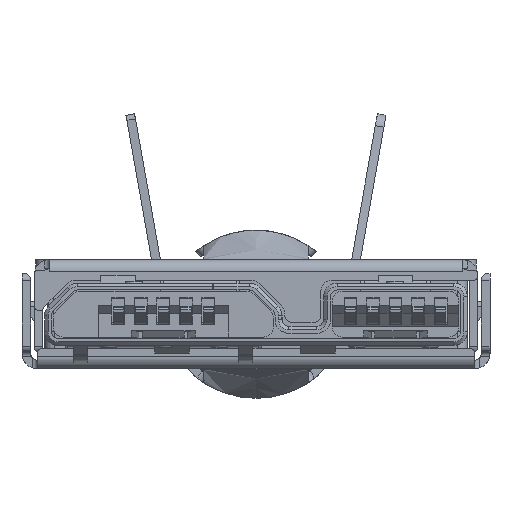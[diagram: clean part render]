
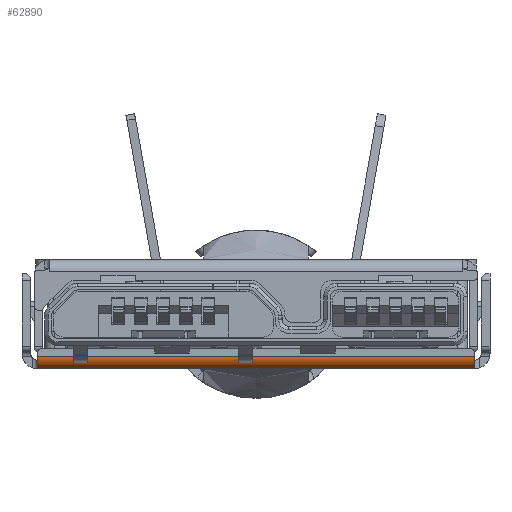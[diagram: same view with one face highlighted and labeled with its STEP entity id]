
A CAD part, front view. The second image highlights one B-rep face of the part: STEP entity #62890.
In plain terms, the highlighted cylindrical face has radius 0.35 mm (diameter 0.7 mm), a partial arc.
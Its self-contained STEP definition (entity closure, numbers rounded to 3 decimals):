
#239 = LINE ( 'NONE', #38949, #20575 ) ;
#916 = DIRECTION ( 'NONE',  ( -1., 0., 0. ) ) ;
#3362 = ORIENTED_EDGE ( 'NONE', *, *, #63111, .T. ) ;
#3447 = CARTESIAN_POINT ( 'NONE',  ( 6.3, 0.35, 0.35 ) ) ;
#3905 = CARTESIAN_POINT ( 'NONE',  ( -6.3, 0., 0.35 ) ) ;
#6506 = CARTESIAN_POINT ( 'NONE',  ( 6.3, 0., 0.35 ) ) ;
#8291 = DIRECTION ( 'NONE',  ( 0., 0., -1. ) ) ;
#8951 = VERTEX_POINT ( 'NONE', #68358 ) ;
#9014 = EDGE_CURVE ( 'NONE', #12181, #11234, #25491, .T. ) ;
#9367 = DIRECTION ( 'NONE',  ( 0., 0., -1. ) ) ;
#9485 = DIRECTION ( 'NONE',  ( 1., 0., 0. ) ) ;
#11234 = VERTEX_POINT ( 'NONE', #13225 ) ;
#12181 = VERTEX_POINT ( 'NONE', #54800 ) ;
#12636 = ORIENTED_EDGE ( 'NONE', *, *, #17087, .T. ) ;
#13225 = CARTESIAN_POINT ( 'NONE',  ( 6.3, 0.3, 0.004 ) ) ;
#14493 = VERTEX_POINT ( 'NONE', #49261 ) ;
#14511 = EDGE_LOOP ( 'NONE', ( #3362, #58343, #34989, #50128, #63248, #12636 ) ) ;
#17087 = EDGE_CURVE ( 'NONE', #8951, #14493, #62261, .T. ) ;
#17377 = CYLINDRICAL_SURFACE ( 'NONE', #61020, 0.35 ) ;
#20135 = VERTEX_POINT ( 'NONE', #30775 ) ;
#20262 = CARTESIAN_POINT ( 'NONE',  ( -6.3, 0.35, 0.35 ) ) ;
#20575 = VECTOR ( 'NONE', #916, 1000. ) ;
#21188 = DIRECTION ( 'NONE',  ( 1., 0., 0. ) ) ;
#21542 = DIRECTION ( 'NONE',  ( 0., -0.143, -0.99 ) ) ;
#21878 = AXIS2_PLACEMENT_3D ( 'NONE', #52979, #57880, #21542 ) ;
#24900 = VECTOR ( 'NONE', #9485, 1000. ) ;
#25491 = CIRCLE ( 'NONE', #64528, 0.35 ) ;
#29628 = DIRECTION ( 'NONE',  ( -1., 0., 0. ) ) ;
#30775 = CARTESIAN_POINT ( 'NONE',  ( -6.3, 0.35, 0. ) ) ;
#32144 = AXIS2_PLACEMENT_3D ( 'NONE', #20262, #41888, #42584 ) ;
#34989 = ORIENTED_EDGE ( 'NONE', *, *, #9014, .T. ) ;
#36188 = CARTESIAN_POINT ( 'NONE',  ( -6.3, 0.35, 0.35 ) ) ;
#38660 = CARTESIAN_POINT ( 'NONE',  ( 24.349, 0.35, 0.35 ) ) ;
#38697 = AXIS2_PLACEMENT_3D ( 'NONE', #36188, #21188, #52275 ) ;
#38949 = CARTESIAN_POINT ( 'NONE',  ( 6.3, 0.35, 0. ) ) ;
#39759 = EDGE_CURVE ( 'NONE', #11234, #51810, #44190, .T. ) ;
#41888 = DIRECTION ( 'NONE',  ( 1., 0., 0. ) ) ;
#42584 = DIRECTION ( 'NONE',  ( 0., -1., 0. ) ) ;
#44190 = CIRCLE ( 'NONE', #21878, 0.35 ) ;
#44960 = FACE_OUTER_BOUND ( 'NONE', #14511, .T. ) ;
#47907 = EDGE_CURVE ( 'NONE', #8951, #51810, #63942, .T. ) ;
#49261 = CARTESIAN_POINT ( 'NONE',  ( -6.3, 0.3, 0.004 ) ) ;
#49408 = EDGE_CURVE ( 'NONE', #12181, #20135, #239, .T. ) ;
#50128 = ORIENTED_EDGE ( 'NONE', *, *, #39759, .T. ) ;
#51810 = VERTEX_POINT ( 'NONE', #6506 ) ;
#52275 = DIRECTION ( 'NONE',  ( 0., -0.143, -0.99 ) ) ;
#52979 = CARTESIAN_POINT ( 'NONE',  ( 6.3, 0.35, 0.35 ) ) ;
#54800 = CARTESIAN_POINT ( 'NONE',  ( 6.3, 0.35, 0. ) ) ;
#57880 = DIRECTION ( 'NONE',  ( -1., 0., 0. ) ) ;
#58343 = ORIENTED_EDGE ( 'NONE', *, *, #49408, .F. ) ;
#61020 = AXIS2_PLACEMENT_3D ( 'NONE', #38660, #66263, #8291 ) ;
#62261 = CIRCLE ( 'NONE', #32144, 0.35 ) ;
#62890 = ADVANCED_FACE ( 'NONE', ( #44960 ), #17377, .T. ) ;
#63111 = EDGE_CURVE ( 'NONE', #14493, #20135, #68827, .T. ) ;
#63248 = ORIENTED_EDGE ( 'NONE', *, *, #47907, .F. ) ;
#63942 = LINE ( 'NONE', #3905, #24900 ) ;
#64528 = AXIS2_PLACEMENT_3D ( 'NONE', #3447, #29628, #9367 ) ;
#66263 = DIRECTION ( 'NONE',  ( -1., 0., 0. ) ) ;
#68358 = CARTESIAN_POINT ( 'NONE',  ( -6.3, 0., 0.35 ) ) ;
#68827 = CIRCLE ( 'NONE', #38697, 0.35 ) ;
